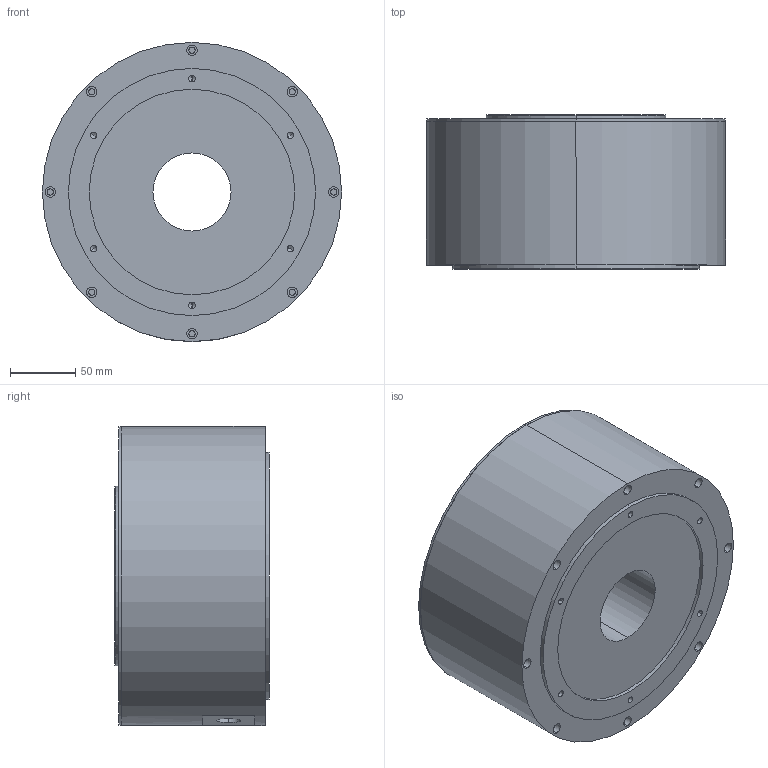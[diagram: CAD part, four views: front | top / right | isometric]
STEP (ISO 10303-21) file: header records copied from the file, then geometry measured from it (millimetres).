
FILE_DESCRIPTION((''),'2;1');
FILE_NAME('PM-DDD34D','2016-02-05T',('jb17719'),(''),'PRO/ENGINEER BY PARAMETRIC TECHNOLOGY CORPORATION, 2008070','PRO/ENGINEER BY PARAMETRIC TECHNOLOGY CORPORATION, 2008070','');
FILE_SCHEMA(('AUTOMOTIVE_DESIGN_CC2 { 1 2 10303 214 -1 1 5 2 }'));
Length unit declared in the file: millimetre
Products named in the file (1): PM-DDD34D
Bounding box: 230 x 118.5 x 230 mm (x, y, z)
Volume: 4363685.5 mm3; surface area: 234793 mm2
Topology: 2 solids, 2 shells, 247 faces, 550 edges, 342 vertices
Faces by surface type: cylinder 140, plane 53, cone 52, torus 2
Entity records: 7155 total; most frequent: DIRECTION 1340, CARTESIAN_POINT 1179, ORIENTED_EDGE 1052, AXIS2_PLACEMENT_3D 571, EDGE_CURVE 526, VERTEX_POINT 342, EDGE_LOOP 338, CIRCLE 324
